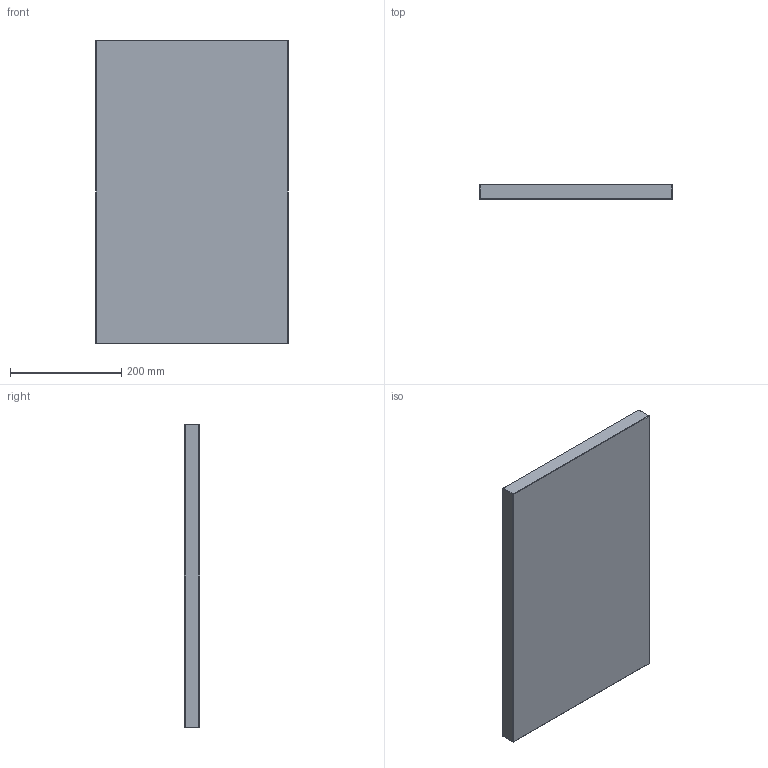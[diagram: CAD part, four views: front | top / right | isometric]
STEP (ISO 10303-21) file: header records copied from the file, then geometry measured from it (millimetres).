
FILE_DESCRIPTION (( 'STEP AP214' ), '1' );
FILE_NAME ('PC-P-346x546x27.STEP', '2020-04-01T10:20:12', ( 'August' ), ( '' ), 'SwSTEP 2.0', 'SolidWorks 2018', '' );
FILE_SCHEMA (( 'AUTOMOTIVE_DESIGN' ));
Length unit declared in the file: millimetre
Products named in the file (1): PC-P-346x546x27
Bounding box: 346 x 27 x 546 mm (x, y, z)
Volume: 5098899.3 mm3; surface area: 423843.6 mm2
Topology: 1 solids, 1 shells, 26 faces, 48 edges, 24 vertices
Faces by surface type: plane 26
Entity records: 634 total; most frequent: DIRECTION 102, CARTESIAN_POINT 99, ORIENTED_EDGE 96, VECTOR 48, LINE 48, EDGE_CURVE 48, AXIS2_PLACEMENT_3D 27, FACE_OUTER_BOUND 26
